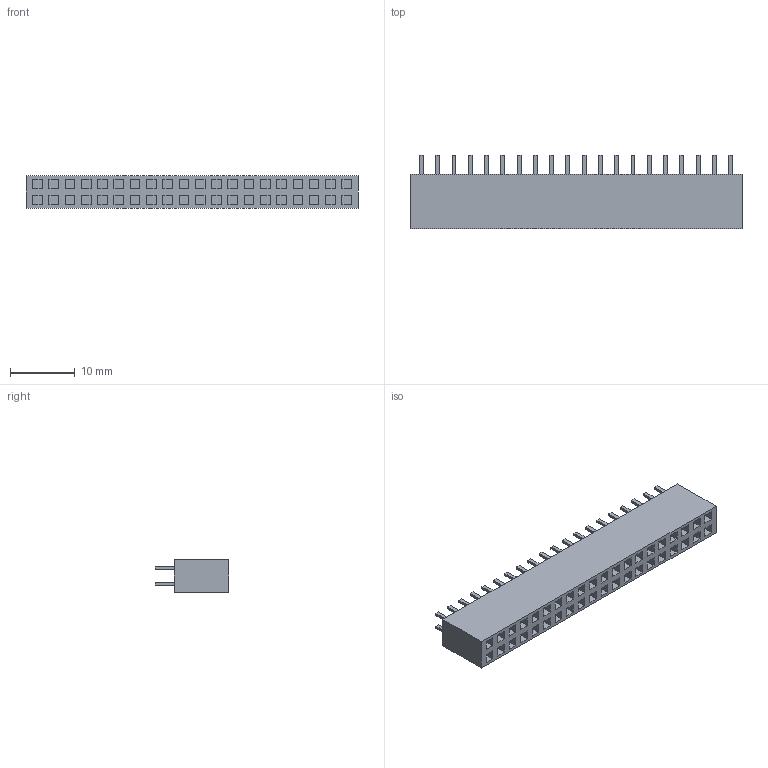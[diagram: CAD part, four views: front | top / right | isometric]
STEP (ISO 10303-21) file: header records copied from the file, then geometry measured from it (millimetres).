
FILE_DESCRIPTION (( 'STEP AP214' ), '1' );
FILE_NAME ('GPIO Vertical Extender (40 Pin).STEP', '2019-02-26T03:43:10', ( '' ), ( '' ), 'SwSTEP 2.0', 'SolidWorks 2018', '' );
FILE_SCHEMA (( 'AUTOMOTIVE_DESIGN' ));
Length unit declared in the file: millimetre
Products named in the file (1): GPIO Vertical Extender (40 Pin)
Bounding box: 51.4 x 11.44 x 5 mm (x, y, z)
Volume: 1747.9 mm3; surface area: 2906 mm2
Topology: 1 solids, 1 shells, 406 faces, 972 edges, 648 vertices
Faces by surface type: plane 406
Entity records: 11550 total; most frequent: CARTESIAN_POINT 2027, ORIENTED_EDGE 1944, DIRECTION 1786, EDGE_CURVE 972, LINE 972, VECTOR 972, VERTEX_POINT 648, EDGE_LOOP 486
